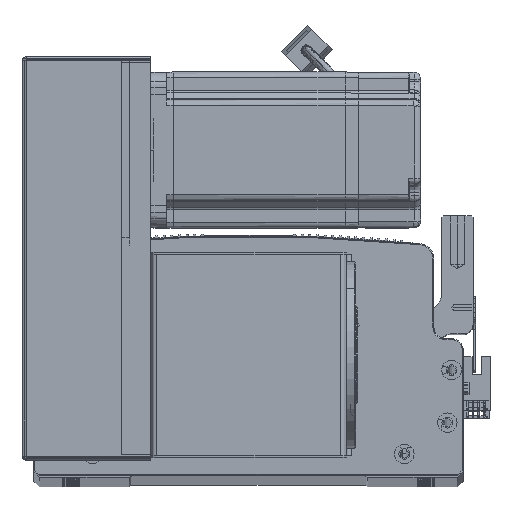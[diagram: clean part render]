
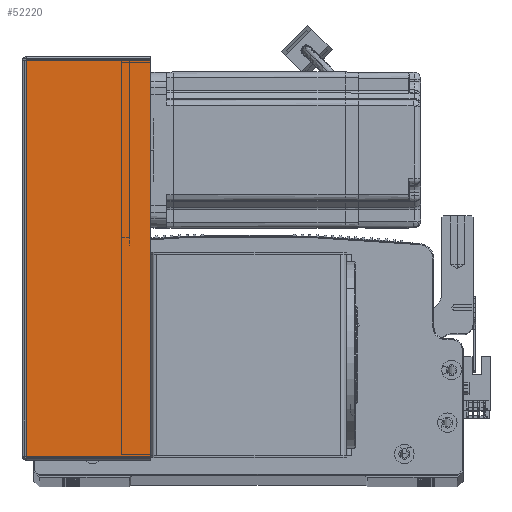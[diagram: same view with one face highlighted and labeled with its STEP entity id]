
A CAD part, top view. The second image highlights one B-rep face of the part: STEP entity #52220.
In plain terms, the highlighted planar face has unit normal (0, 0, 1) as drawn and (0, 1, 0) by its records, which use the part's own axes.
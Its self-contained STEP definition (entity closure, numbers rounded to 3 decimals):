
#2215 = EDGE_CURVE ( 'NONE', #34704, #30732, #25661, .T. ) ;
#3985 = DIRECTION ( 'NONE',  ( 1., 0., 0. ) ) ;
#5638 = VECTOR ( 'NONE', #83095, 1000. ) ;
#6349 = EDGE_CURVE ( 'NONE', #35925, #30732, #60268, .T. ) ;
#12871 = DIRECTION ( 'NONE',  ( 1., 0., 0. ) ) ;
#13352 = ORIENTED_EDGE ( 'NONE', *, *, #6349, .T. ) ;
#14265 = DIRECTION ( 'NONE',  ( 0., 0., -1. ) ) ;
#15760 = EDGE_LOOP ( 'NONE', ( #50590, #72687, #13352, #49396 ) ) ;
#16172 = CARTESIAN_POINT ( 'NONE',  ( 64.5, 107.5, -203.293 ) ) ;
#18153 = VERTEX_POINT ( 'NONE', #67328 ) ;
#19117 = LINE ( 'NONE', #58016, #67349 ) ;
#24898 = EDGE_CURVE ( 'NONE', #18153, #34704, #69780, .T. ) ;
#25661 = LINE ( 'NONE', #30332, #5638 ) ;
#26082 = CARTESIAN_POINT ( 'NONE',  ( 64.5, 107.5, -0.707 ) ) ;
#30332 = CARTESIAN_POINT ( 'NONE',  ( 0., 107.5, -203.293 ) ) ;
#30370 = CARTESIAN_POINT ( 'NONE',  ( 0.737, 107.5, 0. ) ) ;
#30732 = VERTEX_POINT ( 'NONE', #16172 ) ;
#32056 = VECTOR ( 'NONE', #14265, 1000. ) ;
#33559 = EDGE_CURVE ( 'NONE', #18153, #35925, #19117, .T. ) ;
#34603 = DIRECTION ( 'NONE',  ( 0., -1., 0. ) ) ;
#34704 = VERTEX_POINT ( 'NONE', #88817 ) ;
#35925 = VERTEX_POINT ( 'NONE', #26082 ) ;
#37996 = AXIS2_PLACEMENT_3D ( 'NONE', #71195, #34603, #3985 ) ;
#49396 = ORIENTED_EDGE ( 'NONE', *, *, #2215, .F. ) ;
#50590 = ORIENTED_EDGE ( 'NONE', *, *, #24898, .F. ) ;
#52220 = ADVANCED_FACE ( 'NONE', ( #87558 ), #79740, .F. ) ;
#58016 = CARTESIAN_POINT ( 'NONE',  ( 0., 107.5, -0.707 ) ) ;
#60268 = LINE ( 'NONE', #89053, #62641 ) ;
#62641 = VECTOR ( 'NONE', #88411, 1000. ) ;
#67328 = CARTESIAN_POINT ( 'NONE',  ( 0.737, 107.5, -0.707 ) ) ;
#67349 = VECTOR ( 'NONE', #12871, 1000. ) ;
#69780 = LINE ( 'NONE', #30370, #32056 ) ;
#71195 = CARTESIAN_POINT ( 'NONE',  ( 0., 107.5, 0. ) ) ;
#72687 = ORIENTED_EDGE ( 'NONE', *, *, #33559, .T. ) ;
#79740 = PLANE ( 'NONE',  #37996 ) ;
#83095 = DIRECTION ( 'NONE',  ( 1., 0., 0. ) ) ;
#87558 = FACE_OUTER_BOUND ( 'NONE', #15760, .T. ) ;
#88411 = DIRECTION ( 'NONE',  ( 0., 0., -1. ) ) ;
#88817 = CARTESIAN_POINT ( 'NONE',  ( 0.737, 107.5, -203.293 ) ) ;
#89053 = CARTESIAN_POINT ( 'NONE',  ( 64.5, 107.5, -204. ) ) ;
